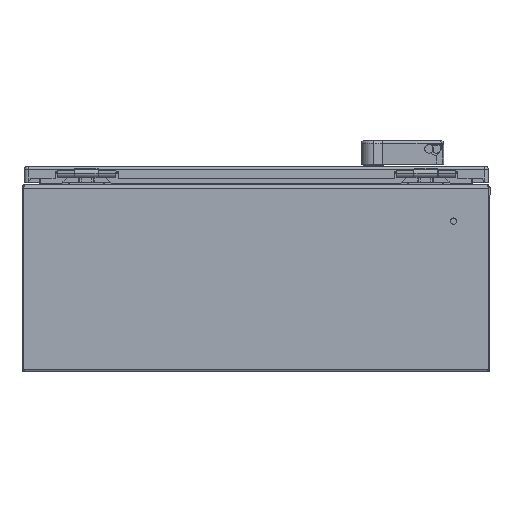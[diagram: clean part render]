
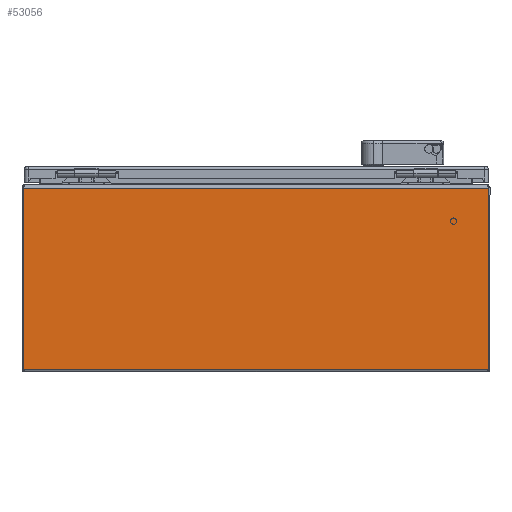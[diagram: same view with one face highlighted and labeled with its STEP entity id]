
A CAD part, left-side view. The second image highlights one B-rep face of the part: STEP entity #53056.
In plain terms, the highlighted planar face has unit normal (-1, 0, 0).
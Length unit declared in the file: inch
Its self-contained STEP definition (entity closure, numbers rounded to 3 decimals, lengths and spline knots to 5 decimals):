
#116 = PLANE ( 'NONE',  #47700 ) ;
#250 = VERTEX_POINT ( 'NONE', #49781 ) ;
#2731 = VERTEX_POINT ( 'NONE', #46302 ) ;
#4955 = LINE ( 'NONE', #81540, #36652 ) ;
#5583 = CARTESIAN_POINT ( 'NONE',  ( -10.206, -9.94429, 7.855 ) ) ;
#16948 = LINE ( 'NONE', #39445, #91486 ) ;
#16970 = VECTOR ( 'NONE', #64335, 39.37008 ) ;
#24598 = ORIENTED_EDGE ( 'NONE', *, *, #55388, .T. ) ;
#29921 = EDGE_CURVE ( 'NONE', #75057, #34097, #90397, .T. ) ;
#34097 = VERTEX_POINT ( 'NONE', #89108 ) ;
#35826 = FACE_OUTER_BOUND ( 'NONE', #87625, .T. ) ;
#36652 = VECTOR ( 'NONE', #65374, 39.37008 ) ;
#39445 = CARTESIAN_POINT ( 'NONE',  ( -10.206, 10., 0.115 ) ) ;
#43512 = DIRECTION ( 'NONE',  ( 1., 0., 0. ) ) ;
#46302 = CARTESIAN_POINT ( 'NONE',  ( -10.206, -9.94429, 0.115 ) ) ;
#47700 = AXIS2_PLACEMENT_3D ( 'NONE', #86679, #43512, #72131 ) ;
#48373 = CARTESIAN_POINT ( 'NONE',  ( -10.206, 9.94429, 0.055 ) ) ;
#49781 = CARTESIAN_POINT ( 'NONE',  ( -10.206, -9.94429, 7.855 ) ) ;
#53056 = ADVANCED_FACE ( 'NONE', ( #35826 ), #116, .F. ) ;
#55123 = DIRECTION ( 'NONE',  ( 0., 1., 0. ) ) ;
#55388 = EDGE_CURVE ( 'NONE', #2731, #250, #4955, .T. ) ;
#55553 = DIRECTION ( 'NONE',  ( 0., 0., 1. ) ) ;
#57898 = ORIENTED_EDGE ( 'NONE', *, *, #29921, .F. ) ;
#64335 = DIRECTION ( 'NONE',  ( 0., 1., 0. ) ) ;
#64460 = LINE ( 'NONE', #5583, #16970 ) ;
#65356 = CARTESIAN_POINT ( 'NONE',  ( -10.206, 9.94429, 0.115 ) ) ;
#65374 = DIRECTION ( 'NONE',  ( 0., 0., 1. ) ) ;
#66197 = EDGE_CURVE ( 'NONE', #250, #34097, #64460, .T. ) ;
#66713 = VECTOR ( 'NONE', #55553, 39.37008 ) ;
#70428 = ORIENTED_EDGE ( 'NONE', *, *, #89743, .F. ) ;
#72131 = DIRECTION ( 'NONE',  ( 0., 0., -1. ) ) ;
#75057 = VERTEX_POINT ( 'NONE', #65356 ) ;
#78976 = ORIENTED_EDGE ( 'NONE', *, *, #66197, .T. ) ;
#81540 = CARTESIAN_POINT ( 'NONE',  ( -10.206, -9.94429, 8. ) ) ;
#86679 = CARTESIAN_POINT ( 'NONE',  ( -10.206, 10., 8. ) ) ;
#87625 = EDGE_LOOP ( 'NONE', ( #78976, #57898, #70428, #24598 ) ) ;
#89108 = CARTESIAN_POINT ( 'NONE',  ( -10.206, 9.94429, 7.855 ) ) ;
#89743 = EDGE_CURVE ( 'NONE', #2731, #75057, #16948, .T. ) ;
#90397 = LINE ( 'NONE', #48373, #66713 ) ;
#91486 = VECTOR ( 'NONE', #55123, 39.37008 ) ;
